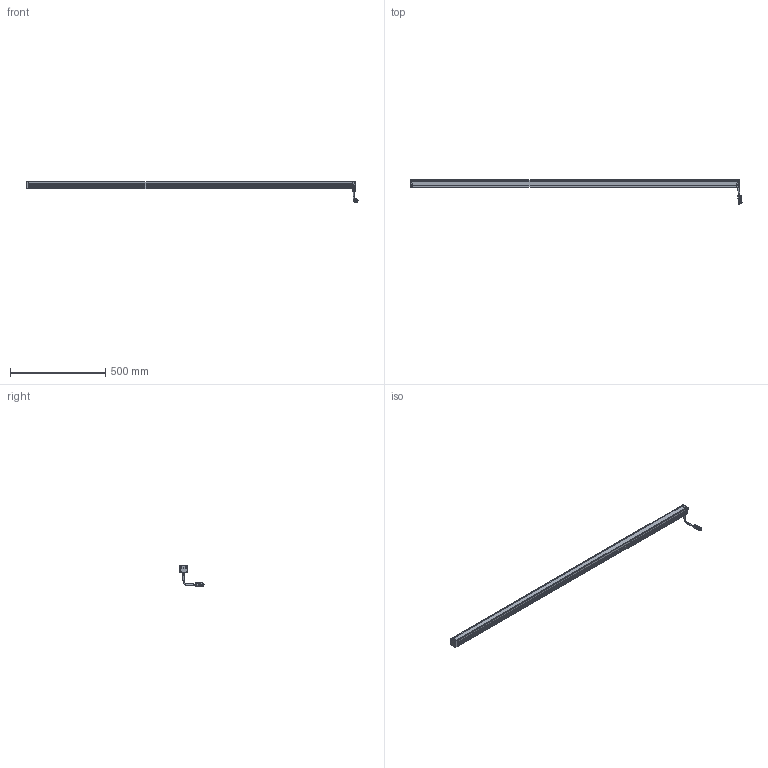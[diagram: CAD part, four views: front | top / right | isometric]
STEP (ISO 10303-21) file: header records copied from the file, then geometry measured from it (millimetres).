
FILE_DESCRIPTION(/* description */ (''),/* implementation_level */ '2;1');
FILE_NAME(/* name */ 'LBHP1700',/* time_stamp */ '2025-01-14T08:10:41+01:00',/* author */ (''),/* organization */ ('iiM AG'),/* preprocessor_version */ 'ST-DEVELOPER v16.7',/* originating_system */ 'DEX',/* authorisation */ $);
FILE_SCHEMA (('AUTOMOTIVE_DESIGN {1 0 10303 214 3 1 1}'));
Length unit declared in the file: millimetre
Products named in the file (1): step export
Bounding box: 1744.79 x 126.2 x 109.58 mm (x, y, z)
Volume: 2204014.2 mm3; surface area: 488200.1 mm2
Topology: 2 solids, 2 shells, 882 faces, 2334 edges, 1476 vertices
Faces by surface type: cylinder 368, plane 336, cone 138, sphere 21, torus 16, bspline 3
Full cylindrical faces by diameter (mm): 1.001 x12, 2.693 x4, 3 x2, 3.1 x4, 3.242 x6, 3.8 x8, 5.6 x8, 6 x8, 6.8 x2, 8.008 x1, 10 x1, 11 x1, 12.9 x2, 14 x1, 15.015 x1, 16.016 x1, 17.518 x1, 18.519 x3, 18.619 x2
Entity records: 32582 total; most frequent: CARTESIAN_POINT 6224, ORIENTED_EDGE 4118, DIRECTION 4048, EDGE_CURVE 2059, AXIS2_PLACEMENT_3D 1523, VERTEX_POINT 1383, FACE_BOUND 1100, EDGE_LOOP 1086
